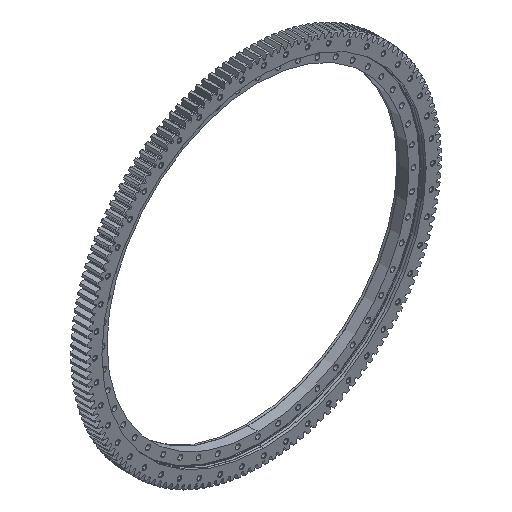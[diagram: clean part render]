
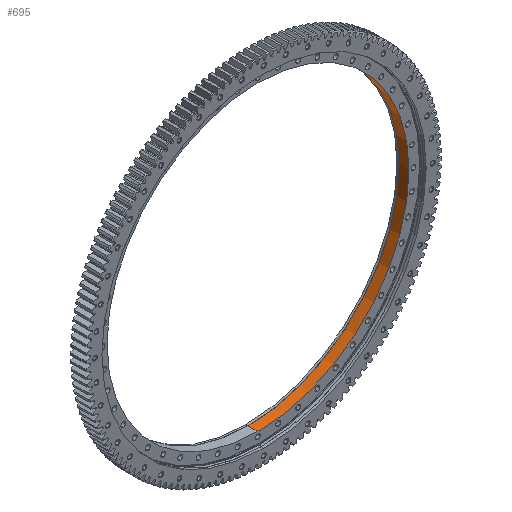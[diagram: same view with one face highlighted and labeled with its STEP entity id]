
A CAD part, isometric view. The second image highlights one B-rep face of the part: STEP entity #695.
In plain terms, the highlighted cylindrical face has radius 677.5 mm (diameter 1355 mm), a partial arc.
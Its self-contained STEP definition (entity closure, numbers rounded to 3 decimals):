
#62 = VECTOR ( 'NONE', #38954, 1000. ) ;
#527 = CARTESIAN_POINT ( 'NONE',  ( 0., -6.124, 677.5 ) ) ;
#647 = AXIS2_PLACEMENT_3D ( 'NONE', #36851, #2019, #17544 ) ;
#695 = ADVANCED_FACE ( 'NONE', ( #21106 ), #25159, .F. ) ;
#2019 = DIRECTION ( 'NONE',  ( 0., -1., 0. ) ) ;
#3950 = EDGE_CURVE ( 'NONE', #47310, #29166, #19158, .T. ) ;
#4700 = EDGE_LOOP ( 'NONE', ( #37319, #13052, #46634, #21154 ) ) ;
#6637 = CARTESIAN_POINT ( 'NONE',  ( 0., -6.124, -677.5 ) ) ;
#7480 = CARTESIAN_POINT ( 'NONE',  ( 0., -6.124, 0. ) ) ;
#10567 = DIRECTION ( 'NONE',  ( 0., 0., -1. ) ) ;
#10802 = EDGE_CURVE ( 'NONE', #38394, #29166, #40245, .T. ) ;
#11520 = CARTESIAN_POINT ( 'NONE',  ( 0., 0., 677.5 ) ) ;
#12433 = VECTOR ( 'NONE', #18159, 1000. ) ;
#13052 = ORIENTED_EDGE ( 'NONE', *, *, #25379, .F. ) ;
#17544 = DIRECTION ( 'NONE',  ( 0., 0., -1. ) ) ;
#18159 = DIRECTION ( 'NONE',  ( 0., -1., 0. ) ) ;
#18363 = AXIS2_PLACEMENT_3D ( 'NONE', #7480, #33951, #10567 ) ;
#19158 = LINE ( 'NONE', #11520, #62 ) ;
#21106 = FACE_OUTER_BOUND ( 'NONE', #4700, .T. ) ;
#21154 = ORIENTED_EDGE ( 'NONE', *, *, #10802, .T. ) ;
#25159 = CYLINDRICAL_SURFACE ( 'NONE', #647, 677.5 ) ;
#25171 = AXIS2_PLACEMENT_3D ( 'NONE', #33290, #36845, #43326 ) ;
#25379 = EDGE_CURVE ( 'NONE', #25676, #47310, #47121, .T. ) ;
#25676 = VERTEX_POINT ( 'NONE', #42434 ) ;
#28701 = CARTESIAN_POINT ( 'NONE',  ( 0., 38.876, 677.5 ) ) ;
#29166 = VERTEX_POINT ( 'NONE', #527 ) ;
#33290 = CARTESIAN_POINT ( 'NONE',  ( 0., 38.876, 0. ) ) ;
#33951 = DIRECTION ( 'NONE',  ( 0., -1., 0. ) ) ;
#36845 = DIRECTION ( 'NONE',  ( 0., -1., 0. ) ) ;
#36851 = CARTESIAN_POINT ( 'NONE',  ( 0., 0., 0. ) ) ;
#37319 = ORIENTED_EDGE ( 'NONE', *, *, #3950, .F. ) ;
#37999 = EDGE_CURVE ( 'NONE', #25676, #38394, #40768, .T. ) ;
#38394 = VERTEX_POINT ( 'NONE', #6637 ) ;
#38954 = DIRECTION ( 'NONE',  ( 0., -1., 0. ) ) ;
#40245 = CIRCLE ( 'NONE', #18363, 677.5 ) ;
#40768 = LINE ( 'NONE', #44589, #12433 ) ;
#42434 = CARTESIAN_POINT ( 'NONE',  ( 0., 38.876, -677.5 ) ) ;
#43326 = DIRECTION ( 'NONE',  ( 0., 0., -1. ) ) ;
#44589 = CARTESIAN_POINT ( 'NONE',  ( 0., 0., -677.5 ) ) ;
#46634 = ORIENTED_EDGE ( 'NONE', *, *, #37999, .T. ) ;
#47121 = CIRCLE ( 'NONE', #25171, 677.5 ) ;
#47310 = VERTEX_POINT ( 'NONE', #28701 ) ;
